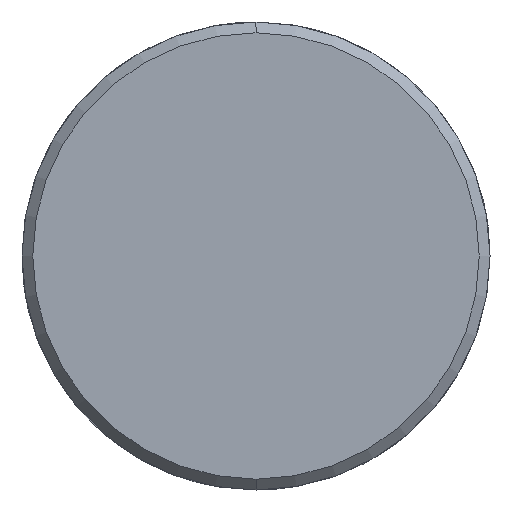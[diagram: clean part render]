
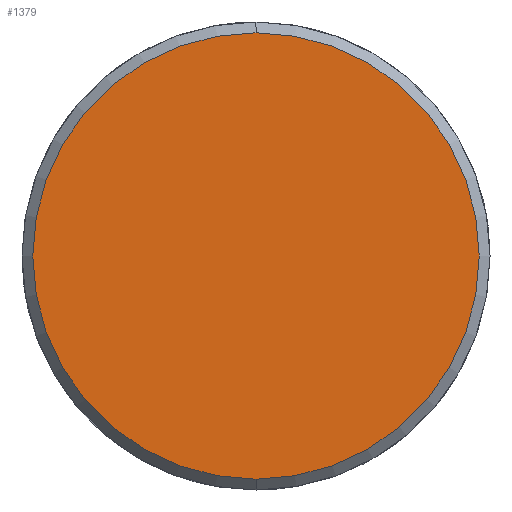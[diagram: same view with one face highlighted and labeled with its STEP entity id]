
A CAD part, left-side view. The second image highlights one B-rep face of the part: STEP entity #1379.
In plain terms, the highlighted planar face has unit normal (-1, 0, 0).
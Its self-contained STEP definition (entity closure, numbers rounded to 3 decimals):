
#1311=CARTESIAN_POINT('Vertex',(-10.,0.,-31.)) ;
#1314=CARTESIAN_POINT('Axis2P3D Location',(-10.,0.,0.)) ;
#1318=CARTESIAN_POINT('Vertex',(-10.,31.,0.)) ;
#1321=CARTESIAN_POINT('Axis2P3D Location',(-10.,0.,0.)) ;
#1325=CARTESIAN_POINT('Vertex',(-10.,0.,31.)) ;
#1347=CARTESIAN_POINT('Axis2P3D Location',(-10.,0.,0.)) ;
#1351=CARTESIAN_POINT('Vertex',(-10.,-31.,0.)) ;
#1354=CARTESIAN_POINT('Axis2P3D Location',(-10.,0.,0.)) ;
#1368=CARTESIAN_POINT('Axis2P3D Location',(-10.,0.,0.)) ;
#1315=DIRECTION('Axis2P3D Direction',(1.,0.,-0.)) ;
#1322=DIRECTION('Axis2P3D Direction',(1.,0.,-0.)) ;
#1348=DIRECTION('Axis2P3D Direction',(1.,0.,-0.)) ;
#1355=DIRECTION('Axis2P3D Direction',(1.,0.,-0.)) ;
#1369=DIRECTION('Axis2P3D Direction',(1.,0.,-0.)) ;
#1370=DIRECTION('Axis2P3D XDirection',(-0.,0.,-1.)) ;
#1316=AXIS2_PLACEMENT_3D('Circle Axis2P3D',#1314,#1315,$) ;
#1323=AXIS2_PLACEMENT_3D('Circle Axis2P3D',#1321,#1322,$) ;
#1349=AXIS2_PLACEMENT_3D('Circle Axis2P3D',#1347,#1348,$) ;
#1356=AXIS2_PLACEMENT_3D('Circle Axis2P3D',#1354,#1355,$) ;
#1371=AXIS2_PLACEMENT_3D('Plane Axis2P3D',#1368,#1369,#1370) ;
#1374=ORIENTED_EDGE('',*,*,#1320,.F.) ;
#1375=ORIENTED_EDGE('',*,*,#1358,.F.) ;
#1376=ORIENTED_EDGE('',*,*,#1353,.F.) ;
#1377=ORIENTED_EDGE('',*,*,#1327,.F.) ;
#1379=ADVANCED_FACE('351-50X126X400',(#1378),#1372,.F.) ;
#1317=CIRCLE('generated circle',#1316,31.) ;
#1324=CIRCLE('generated circle',#1323,31.) ;
#1350=CIRCLE('generated circle',#1349,31.) ;
#1357=CIRCLE('generated circle',#1356,31.) ;
#1320=EDGE_CURVE('',#1312,#1319,#1317,.T.) ;
#1327=EDGE_CURVE('',#1319,#1326,#1324,.T.) ;
#1353=EDGE_CURVE('',#1326,#1352,#1350,.T.) ;
#1358=EDGE_CURVE('',#1352,#1312,#1357,.T.) ;
#1373=EDGE_LOOP('',(#1374,#1375,#1376,#1377)) ;
#1378=FACE_OUTER_BOUND('',#1373,.T.) ;
#1372=PLANE('Plane',#1371) ;
#1312=VERTEX_POINT('',#1311) ;
#1319=VERTEX_POINT('',#1318) ;
#1326=VERTEX_POINT('',#1325) ;
#1352=VERTEX_POINT('',#1351) ;
